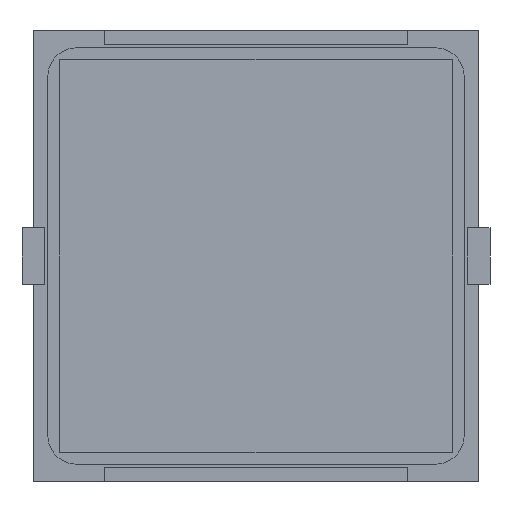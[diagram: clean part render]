
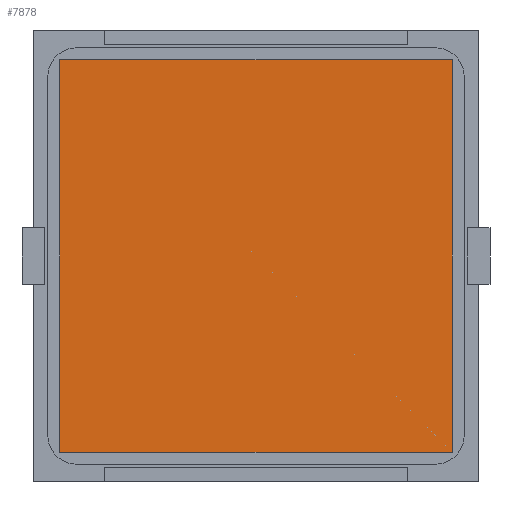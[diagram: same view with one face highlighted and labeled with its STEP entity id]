
A CAD part, front view. The second image highlights one B-rep face of the part: STEP entity #7878.
In plain terms, the highlighted planar face has unit normal (0, -1, 0).
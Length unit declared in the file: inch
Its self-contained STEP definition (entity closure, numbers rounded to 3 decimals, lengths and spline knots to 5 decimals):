
#75 = DIRECTION ( 'NONE',  ( 0., 0., -1. ) ) ;
#1003 = VERTEX_POINT ( 'NONE', #9845 ) ;
#2334 = PLANE ( 'NONE',  #6396 ) ;
#2714 = LINE ( 'NONE', #13007, #8330 ) ;
#5631 = CARTESIAN_POINT ( 'NONE',  ( 0.68898, -0.005, -0.68898 ) ) ;
#6312 = VERTEX_POINT ( 'NONE', #5631 ) ;
#6396 = AXIS2_PLACEMENT_3D ( 'NONE', #16173, #10327, #8605 ) ;
#6420 = EDGE_LOOP ( 'NONE', ( #13371, #13202, #18931, #13507 ) ) ;
#6485 = LINE ( 'NONE', #15322, #16208 ) ;
#6755 = DIRECTION ( 'NONE',  ( -1., 0., 0. ) ) ;
#6855 = LINE ( 'NONE', #8020, #7806 ) ;
#6941 = CARTESIAN_POINT ( 'NONE',  ( -0.68898, -0.005, 0.68898 ) ) ;
#7055 = EDGE_CURVE ( 'NONE', #14511, #14907, #6485, .T. ) ;
#7342 = DIRECTION ( 'NONE',  ( 0., 0., 1. ) ) ;
#7806 = VECTOR ( 'NONE', #6755, 39.37008 ) ;
#7878 = ADVANCED_FACE ( 'NONE', ( #16871 ), #2334, .F. ) ;
#8020 = CARTESIAN_POINT ( 'NONE',  ( -0.68898, -0.005, -0.68898 ) ) ;
#8330 = VECTOR ( 'NONE', #7342, 39.37008 ) ;
#8605 = DIRECTION ( 'NONE',  ( 0., 0., 1. ) ) ;
#8873 = VECTOR ( 'NONE', #75, 39.37008 ) ;
#9845 = CARTESIAN_POINT ( 'NONE',  ( -0.68898, -0.005, -0.68898 ) ) ;
#10327 = DIRECTION ( 'NONE',  ( 0., 1., 0. ) ) ;
#11449 = EDGE_CURVE ( 'NONE', #14907, #6312, #11831, .T. ) ;
#11831 = LINE ( 'NONE', #13382, #8873 ) ;
#13007 = CARTESIAN_POINT ( 'NONE',  ( -0.68898, -0.005, -0.68898 ) ) ;
#13202 = ORIENTED_EDGE ( 'NONE', *, *, #15058, .F. ) ;
#13371 = ORIENTED_EDGE ( 'NONE', *, *, #16005, .F. ) ;
#13382 = CARTESIAN_POINT ( 'NONE',  ( 0.68898, -0.005, -0.68898 ) ) ;
#13507 = ORIENTED_EDGE ( 'NONE', *, *, #7055, .F. ) ;
#14511 = VERTEX_POINT ( 'NONE', #6941 ) ;
#14907 = VERTEX_POINT ( 'NONE', #15817 ) ;
#14945 = DIRECTION ( 'NONE',  ( 1., 0., 0. ) ) ;
#15058 = EDGE_CURVE ( 'NONE', #6312, #1003, #6855, .T. ) ;
#15322 = CARTESIAN_POINT ( 'NONE',  ( -0.68898, -0.005, 0.68898 ) ) ;
#15817 = CARTESIAN_POINT ( 'NONE',  ( 0.68898, -0.005, 0.68898 ) ) ;
#16005 = EDGE_CURVE ( 'NONE', #1003, #14511, #2714, .T. ) ;
#16173 = CARTESIAN_POINT ( 'NONE',  ( -0.68898, -0.005, 0.68898 ) ) ;
#16208 = VECTOR ( 'NONE', #14945, 39.37008 ) ;
#16871 = FACE_OUTER_BOUND ( 'NONE', #6420, .T. ) ;
#18931 = ORIENTED_EDGE ( 'NONE', *, *, #11449, .F. ) ;
